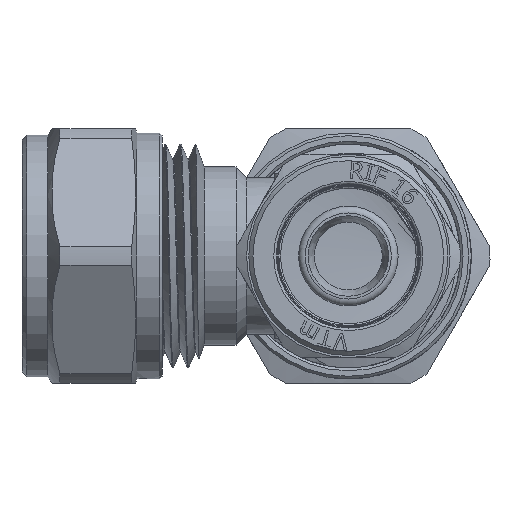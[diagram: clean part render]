
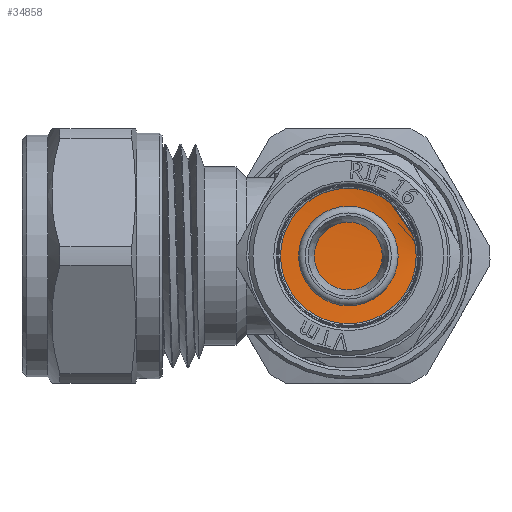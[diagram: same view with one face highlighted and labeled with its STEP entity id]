
A CAD part, left-side view. The second image highlights one B-rep face of the part: STEP entity #34858.
In plain terms, the highlighted cylindrical face has radius 9.3 mm (diameter 18.6 mm), a full revolution.
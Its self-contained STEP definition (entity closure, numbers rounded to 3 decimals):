
#325=LINE('',#45986,#2711);
#326=LINE('',#46038,#2712);
#2711=VECTOR('',#38799,9.3);
#2712=VECTOR('',#38802,9.3);
#5089=CYLINDRICAL_SURFACE('',#36895,9.3);
#6460=FACE_OUTER_BOUND('',#8451,.T.);
#8451=EDGE_LOOP('',(#23221,#23222,#23223,#23224,#23225,#23226,#23227,#23228));
#10621=B_SPLINE_CURVE_WITH_KNOTS('',3,(#45988,#45989,#45990,#45991,#45992,
#45993,#45994,#45995,#45996,#45997,#45998,#45999,#46000,#46001,#46002,#46003,
#46004,#46005,#46006,#46007,#46008,#46009,#46010,#46011,#46012,#46013,#46014,
#46015,#46016,#46017,#46018,#46019,#46020,#46021,#46022,#46023,#46024),
 .UNSPECIFIED.,.F.,.F.,(4,3,3,3,3,3,3,3,3,3,3,3,4),(0.776,1.128,
1.617,2.107,2.597,3.086,3.576,
4.065,4.555,5.045,5.534,6.024,
6.128),.UNSPECIFIED.);
#10622=B_SPLINE_CURVE_WITH_KNOTS('',3,(#46027,#46028,#46029,#46030,#46031,
#46032,#46033,#46034,#46035,#46036),.UNSPECIFIED.,.F.,.F.,(4,3,3,4),(-1.28,
-0.965,-0.483,0.),.UNSPECIFIED.);
#12860=CIRCLE('',#36896,9.3);
#12861=CIRCLE('',#36897,9.3);
#12862=CIRCLE('',#36898,9.3);
#13782=VERTEX_POINT('',#45604);
#13789=VERTEX_POINT('',#45985);
#13790=VERTEX_POINT('',#45987);
#13791=VERTEX_POINT('',#46025);
#13792=VERTEX_POINT('',#46037);
#13793=VERTEX_POINT('',#46039);
#17572=EDGE_CURVE('',#13782,#13789,#325,.T.);
#17573=EDGE_CURVE('',#13790,#13782,#10621,.T.);
#17574=EDGE_CURVE('',#13791,#13790,#12860,.T.);
#17575=EDGE_CURVE('',#13789,#13791,#10622,.T.);
#17576=EDGE_CURVE('',#13789,#13792,#326,.T.);
#17577=EDGE_CURVE('',#13793,#13792,#12861,.T.);
#17578=EDGE_CURVE('',#13792,#13793,#12862,.T.);
#23221=ORIENTED_EDGE('',*,*,#17572,.F.);
#23222=ORIENTED_EDGE('',*,*,#17573,.F.);
#23223=ORIENTED_EDGE('',*,*,#17574,.F.);
#23224=ORIENTED_EDGE('',*,*,#17575,.F.);
#23225=ORIENTED_EDGE('',*,*,#17576,.T.);
#23226=ORIENTED_EDGE('',*,*,#17577,.F.);
#23227=ORIENTED_EDGE('',*,*,#17578,.F.);
#23228=ORIENTED_EDGE('',*,*,#17576,.F.);
#34858=ADVANCED_FACE('',(#6460),#5089,.F.);
#36895=AXIS2_PLACEMENT_3D('',#45984,#38797,#38798);
#36896=AXIS2_PLACEMENT_3D('',#46026,#38800,#38801);
#36897=AXIS2_PLACEMENT_3D('',#46040,#38803,#38804);
#36898=AXIS2_PLACEMENT_3D('',#46041,#38805,#38806);
#38797=DIRECTION('center_axis',(1.,0.,0.));
#38798=DIRECTION('ref_axis',(0.,1.,0.));
#38799=DIRECTION('',(-1.,0.,0.));
#38800=DIRECTION('center_axis',(-1.,0.,0.));
#38801=DIRECTION('ref_axis',(0.,0.,1.));
#38802=DIRECTION('',(-1.,0.,0.));
#38803=DIRECTION('center_axis',(1.,0.,0.));
#38804=DIRECTION('ref_axis',(0.,0.,-1.));
#38805=DIRECTION('center_axis',(1.,0.,0.));
#38806=DIRECTION('ref_axis',(0.,0.,-1.));
#45604=CARTESIAN_POINT('',(-23.967,-9.3,0.));
#45984=CARTESIAN_POINT('Origin',(-24.05,0.,
0.));
#45985=CARTESIAN_POINT('',(-25.133,-9.3,0.));
#45986=CARTESIAN_POINT('',(-24.05,-9.3,0.));
#45987=CARTESIAN_POINT('',(-25.5,-5.554,-7.46));
#45988=CARTESIAN_POINT('Ctrl Pts',(-25.5,-5.554,
-7.459));
#45989=CARTESIAN_POINT('Ctrl Pts',(-25.466,-4.677,
-8.111));
#45990=CARTESIAN_POINT('Ctrl Pts',(-25.433,-3.686,
-8.609));
#45991=CARTESIAN_POINT('Ctrl Pts',(-25.399,-2.639,
-8.918));
#45992=CARTESIAN_POINT('Ctrl Pts',(-25.352,-1.184,
-9.349));
#45993=CARTESIAN_POINT('Ctrl Pts',(-25.306,0.378,
-9.416));
#45994=CARTESIAN_POINT('Ctrl Pts',(-25.259,1.865,-9.112));
#45995=CARTESIAN_POINT('Ctrl Pts',(-25.212,3.351,-8.808));
#45996=CARTESIAN_POINT('Ctrl Pts',(-25.165,4.762,-8.132));
#45997=CARTESIAN_POINT('Ctrl Pts',(-25.119,5.931,-7.165));
#45998=CARTESIAN_POINT('Ctrl Pts',(-25.072,7.099,-6.197));
#45999=CARTESIAN_POINT('Ctrl Pts',(-25.025,8.027,-4.938));
#46000=CARTESIAN_POINT('Ctrl Pts',(-24.978,8.603,-3.534));
#46001=CARTESIAN_POINT('Ctrl Pts',(-24.932,9.18,-2.13));
#46002=CARTESIAN_POINT('Ctrl Pts',(-24.885,9.406,-0.583));
#46003=CARTESIAN_POINT('Ctrl Pts',(-24.838,9.254,0.927));
#46004=CARTESIAN_POINT('Ctrl Pts',(-24.791,9.103,2.437));
#46005=CARTESIAN_POINT('Ctrl Pts',(-24.745,8.575,3.909));
#46006=CARTESIAN_POINT('Ctrl Pts',(-24.698,7.731,5.17));
#46007=CARTESIAN_POINT('Ctrl Pts',(-24.651,6.888,6.432));
#46008=CARTESIAN_POINT('Ctrl Pts',(-24.604,5.729,7.482));
#46009=CARTESIAN_POINT('Ctrl Pts',(-24.558,4.392,8.199));
#46010=CARTESIAN_POINT('Ctrl Pts',(-24.511,3.054,8.915));
#46011=CARTESIAN_POINT('Ctrl Pts',(-24.464,1.538,9.297));
#46012=CARTESIAN_POINT('Ctrl Pts',(-24.417,0.02,
9.301));
#46013=CARTESIAN_POINT('Ctrl Pts',(-24.371,-1.497,
9.304));
#46014=CARTESIAN_POINT('Ctrl Pts',(-24.324,-3.015,
8.928));
#46015=CARTESIAN_POINT('Ctrl Pts',(-24.277,-4.356,
8.218));
#46016=CARTESIAN_POINT('Ctrl Pts',(-24.23,-5.697,
7.507));
#46017=CARTESIAN_POINT('Ctrl Pts',(-24.184,-6.86,
6.461));
#46018=CARTESIAN_POINT('Ctrl Pts',(-24.137,-7.709,
5.204));
#46019=CARTESIAN_POINT('Ctrl Pts',(-24.09,-8.558,
3.946));
#46020=CARTESIAN_POINT('Ctrl Pts',(-24.043,-9.093,2.476));
#46021=CARTESIAN_POINT('Ctrl Pts',(-23.997,-9.25,
0.967));
#46022=CARTESIAN_POINT('Ctrl Pts',(-23.987,-9.284,
0.646));
#46023=CARTESIAN_POINT('Ctrl Pts',(-23.977,-9.3,
0.323));
#46024=CARTESIAN_POINT('Ctrl Pts',(-23.967,-9.3,
0.));
#46025=CARTESIAN_POINT('',(-25.5,-2.667,8.909));
#46026=CARTESIAN_POINT('Origin',(-25.5,0.,
0.));
#46027=CARTESIAN_POINT('Ctrl Pts',(-25.133,-9.3,
0.));
#46028=CARTESIAN_POINT('Ctrl Pts',(-25.163,-9.299,
0.975));
#46029=CARTESIAN_POINT('Ctrl Pts',(-25.193,-9.146,
1.951));
#46030=CARTESIAN_POINT('Ctrl Pts',(-25.223,-8.844,
2.878));
#46031=CARTESIAN_POINT('Ctrl Pts',(-25.27,-8.381,4.3));
#46032=CARTESIAN_POINT('Ctrl Pts',(-25.316,-7.568,
5.609));
#46033=CARTESIAN_POINT('Ctrl Pts',(-25.362,-6.498,
6.654));
#46034=CARTESIAN_POINT('Ctrl Pts',(-25.408,-5.428,
7.699));
#46035=CARTESIAN_POINT('Ctrl Pts',(-25.454,-4.101,
8.48));
#46036=CARTESIAN_POINT('Ctrl Pts',(-25.5,-2.667,8.909));
#46037=CARTESIAN_POINT('',(-26.2,-9.3,0.));
#46038=CARTESIAN_POINT('',(-24.05,-9.3,0.));
#46039=CARTESIAN_POINT('',(-26.2,9.3,0.));
#46040=CARTESIAN_POINT('Origin',(-26.2,0.,0.));
#46041=CARTESIAN_POINT('Origin',(-26.2,0.,0.));
